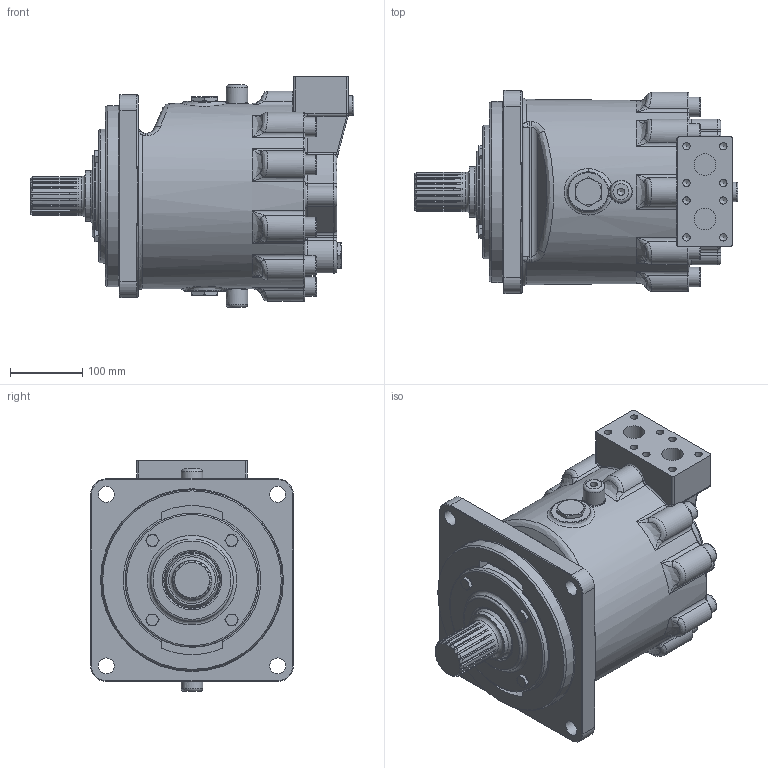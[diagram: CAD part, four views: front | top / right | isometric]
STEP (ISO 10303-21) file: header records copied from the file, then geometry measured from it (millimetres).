
FILE_DESCRIPTION((''),'2;1');
FILE_NAME('N:\Engineering\Gareth Totman\M3X530 ACN.stp','2009-11-03T13:50:40',('mnorman'),(''),'Autodesk Inventor 2010','Autodesk Inventor 2010','');
FILE_SCHEMA(('AUTOMOTIVE_DESIGN { 1 0 10303 214 1 1 1 1 }'));
Length unit declared in the file: millimetre
Products named in the file (1): Part8
Bounding box: 447 x 280 x 318.5 mm (x, y, z)
Volume: 13948187 mm3; surface area: 739439.1 mm2
Topology: 23 solids, 23 shells, 915 faces, 2184 edges, 1339 vertices
Faces by surface type: plane 315, bspline 278, cylinder 157, cone 97, torus 68
Full cylindrical faces by diameter (mm): 10 x4, 10.106 x1, 14.63 x4, 22 x4, 26 x1, 27 x11, 30 x3, 30.8 x2, 54.4 x1, 69.9 x1, 75 x1, 78.1 x1, 85 x1, 100 x1, 114 x1, 115 x1, 130 x2, 185 x1, 250 x1, 256 x1
Entity records: 33007 total; most frequent: CARTESIAN_POINT 13473, ORIENTED_EDGE 3886, DIRECTION 3479, EDGE_CURVE 1943, AXIS2_PLACEMENT_3D 1360, VERTEX_POINT 1265, EDGE_LOOP 1124, STYLED_ITEM 938
